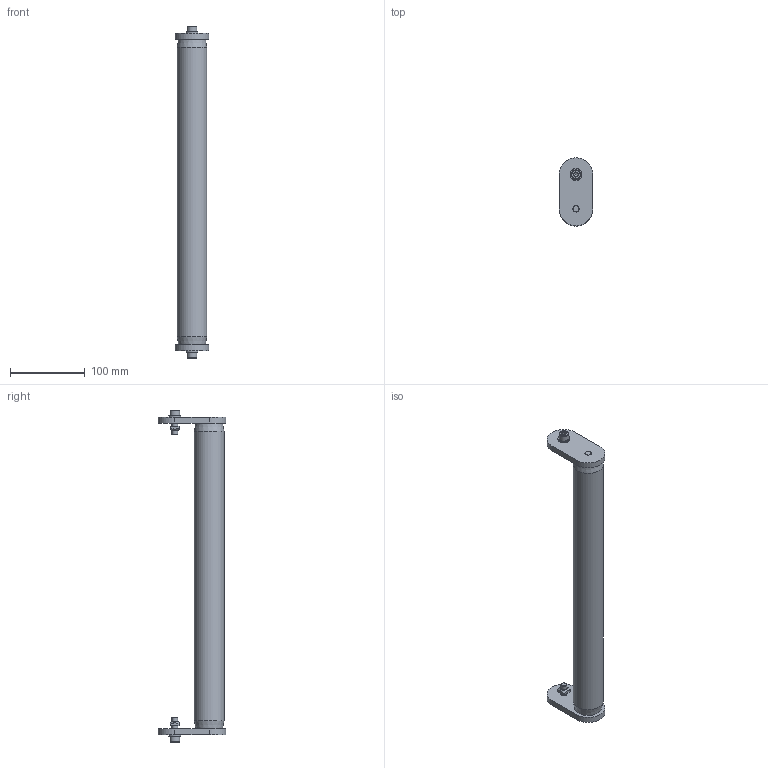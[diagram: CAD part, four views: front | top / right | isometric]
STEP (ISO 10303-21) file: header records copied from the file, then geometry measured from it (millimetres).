
FILE_DESCRIPTION (( 'STEP AP214' ), '1' );
FILE_NAME ('983-004-400.STEP', '2020-11-23T10:26:20', ( '' ), ( '' ), 'SwSTEP 2.0', 'SolidWorks 2020', '' );
FILE_SCHEMA (( 'AUTOMOTIVE_DESIGN' ));
Length unit declared in the file: millimetre
Products named in the file (8): 983-004-400; 982-009; 910-011; CHC THE_910-053H; CHC M8X25 + RP8; 982-010-400; 983-003; RONDELLE_910-111
Assembly tree (8 placements, depth 4):
  983-004-400
    983-003  x2
      982-009
      910-011
      CHC M8X25 + RP8
        CHC THE_910-053H
        RONDELLE_910-111
    982-010-400
Bounding box: 45 x 91 x 445.2 mm (x, y, z)
Volume: 575934.1 mm3; surface area: 77133.6 mm2
Topology: 9 solids, 9 shells, 119 faces, 261 edges, 166 vertices
Faces by surface type: plane 60, cylinder 33, cone 22, torus 4
Full cylindrical faces by diameter (mm): 6 x2, 6.8 x2, 7.98 x2, 8 x4, 8.4 x2, 8.5 x4, 13 x2, 16 x2, 40 x1
Entity records: 2038 total; most frequent: CARTESIAN_POINT 389, DIRECTION 312, ORIENTED_EDGE 228, AXIS2_PLACEMENT_3D 131, EDGE_CURVE 114, EDGE_LOOP 96, VERTEX_POINT 84, FACE_OUTER_BOUND 78
